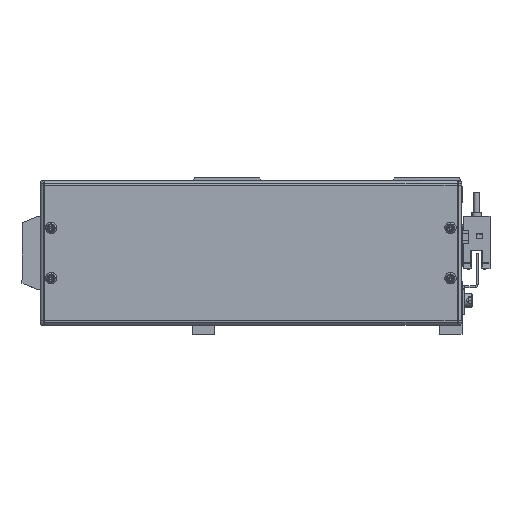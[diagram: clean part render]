
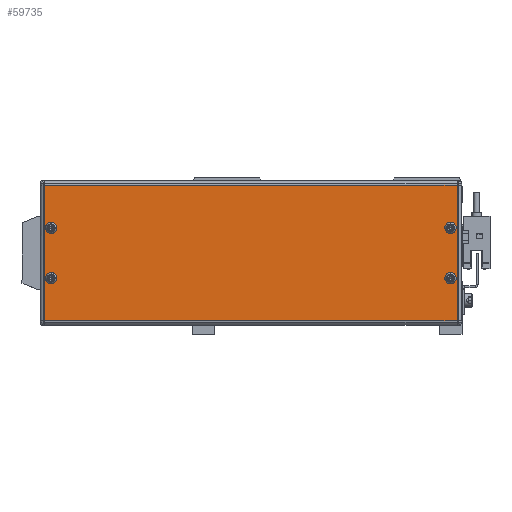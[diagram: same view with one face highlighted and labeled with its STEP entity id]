
A CAD part, front view. The second image highlights one B-rep face of the part: STEP entity #59735.
In plain terms, the highlighted planar face has unit normal (0, -1, 0) as drawn and (0, 0, 1) by its records, which use the part's own axes.
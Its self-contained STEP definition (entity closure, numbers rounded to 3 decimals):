
#197 = DIRECTION ( 'NONE',  ( 0., -1., 0. ) ) ;
#812 = DIRECTION ( 'NONE',  ( 1., 0., 0. ) ) ;
#1558 = CIRCLE ( 'NONE', #5477, 2. ) ;
#2247 = VERTEX_POINT ( 'NONE', #32899 ) ;
#2771 = CIRCLE ( 'NONE', #21079, 2. ) ;
#2951 = CARTESIAN_POINT ( 'NONE',  ( 143.104, 17.86, 400. ) ) ;
#4017 = DIRECTION ( 'NONE',  ( 1., 0., 0. ) ) ;
#5038 = DIRECTION ( 'NONE',  ( 0., 0., 1. ) ) ;
#5062 = AXIS2_PLACEMENT_3D ( 'NONE', #37047, #47709, #52932 ) ;
#5118 = EDGE_CURVE ( 'NONE', #51415, #56471, #1558, .T. ) ;
#5242 = EDGE_LOOP ( 'NONE', ( #31047, #30261 ) ) ;
#5477 = AXIS2_PLACEMENT_3D ( 'NONE', #22239, #16813, #812 ) ;
#5544 = DIRECTION ( 'NONE',  ( 1., 0., 0. ) ) ;
#5624 = FACE_BOUND ( 'NONE', #13006, .T. ) ;
#7408 = VERTEX_POINT ( 'NONE', #46159 ) ;
#7965 = DIRECTION ( 'NONE',  ( 1., 0., 0. ) ) ;
#8008 = DIRECTION ( 'NONE',  ( 0., 0., 1. ) ) ;
#9710 = LINE ( 'NONE', #24643, #54780 ) ;
#10123 = CARTESIAN_POINT ( 'NONE',  ( -61.16, 39.124, 400. ) ) ;
#13006 = EDGE_LOOP ( 'NONE', ( #54839, #49816 ) ) ;
#13302 = CARTESIAN_POINT ( 'NONE',  ( -55.896, -7.14, 400. ) ) ;
#13342 = EDGE_CURVE ( 'NONE', #62360, #54579, #9710, .T. ) ;
#15938 = FACE_BOUND ( 'NONE', #18577, .T. ) ;
#16744 = CARTESIAN_POINT ( 'NONE',  ( 141.104, -7.14, 400. ) ) ;
#16813 = DIRECTION ( 'NONE',  ( 0., 0., 1. ) ) ;
#18577 = EDGE_LOOP ( 'NONE', ( #38664, #31060 ) ) ;
#18623 = EDGE_CURVE ( 'NONE', #55507, #69044, #2771, .T. ) ;
#20512 = EDGE_LOOP ( 'NONE', ( #66088, #62236 ) ) ;
#21079 = AXIS2_PLACEMENT_3D ( 'NONE', #57318, #52323, #4017 ) ;
#21713 = DIRECTION ( 'NONE',  ( 1., 0., 0. ) ) ;
#22226 = DIRECTION ( 'NONE',  ( 0., 0., 1. ) ) ;
#22239 = CARTESIAN_POINT ( 'NONE',  ( 141.104, 17.86, 400. ) ) ;
#22362 = VERTEX_POINT ( 'NONE', #59367 ) ;
#22400 = CARTESIAN_POINT ( 'NONE',  ( -57.896, -7.14, 400. ) ) ;
#22828 = CARTESIAN_POINT ( 'NONE',  ( -61.16, 39.153, 400. ) ) ;
#23117 = LINE ( 'NONE', #22828, #65573 ) ;
#24411 = DIRECTION ( 'NONE',  ( 0., 1., 0. ) ) ;
#24412 = FACE_BOUND ( 'NONE', #5242, .T. ) ;
#24643 = CARTESIAN_POINT ( 'NONE',  ( 144.367, -28.433, 400. ) ) ;
#24680 = ORIENTED_EDGE ( 'NONE', *, *, #69789, .T. ) ;
#24905 = DIRECTION ( 'NONE',  ( 1., 0., 0. ) ) ;
#25239 = VERTEX_POINT ( 'NONE', #35854 ) ;
#27061 = EDGE_CURVE ( 'NONE', #2247, #62360, #63079, .T. ) ;
#30261 = ORIENTED_EDGE ( 'NONE', *, *, #45007, .F. ) ;
#31047 = ORIENTED_EDGE ( 'NONE', *, *, #59570, .F. ) ;
#31060 = ORIENTED_EDGE ( 'NONE', *, *, #5118, .F. ) ;
#32899 = CARTESIAN_POINT ( 'NONE',  ( -61.16, -28.403, 400. ) ) ;
#35854 = CARTESIAN_POINT ( 'NONE',  ( -55.896, 17.86, 400. ) ) ;
#36575 = VERTEX_POINT ( 'NONE', #10123 ) ;
#36905 = CIRCLE ( 'NONE', #54159, 2. ) ;
#37047 = CARTESIAN_POINT ( 'NONE',  ( -57.896, 17.86, 400. ) ) ;
#37093 = VERTEX_POINT ( 'NONE', #63182 ) ;
#37990 = CIRCLE ( 'NONE', #67244, 2. ) ;
#38213 = CARTESIAN_POINT ( 'NONE',  ( 141.104, -7.14, 400. ) ) ;
#38229 = DIRECTION ( 'NONE',  ( 1., 0., 0. ) ) ;
#38664 = ORIENTED_EDGE ( 'NONE', *, *, #39162, .F. ) ;
#38886 = CIRCLE ( 'NONE', #57711, 2. ) ;
#39094 = DIRECTION ( 'NONE',  ( 1., 0., 0. ) ) ;
#39162 = EDGE_CURVE ( 'NONE', #56471, #51415, #36905, .T. ) ;
#39537 = CIRCLE ( 'NONE', #42341, 2. ) ;
#40815 = CARTESIAN_POINT ( 'NONE',  ( -34.746, 3.4, 400. ) ) ;
#42341 = AXIS2_PLACEMENT_3D ( 'NONE', #38213, #22226, #5544 ) ;
#42688 = ORIENTED_EDGE ( 'NONE', *, *, #68172, .T. ) ;
#43159 = FACE_OUTER_BOUND ( 'NONE', #65339, .T. ) ;
#43438 = DIRECTION ( 'NONE',  ( 0., 0., 1. ) ) ;
#44081 = VECTOR ( 'NONE', #67253, 1000. ) ;
#45007 = EDGE_CURVE ( 'NONE', #7408, #25239, #60772, .T. ) ;
#45448 = CARTESIAN_POINT ( 'NONE',  ( 144.397, 39.124, 400. ) ) ;
#46159 = CARTESIAN_POINT ( 'NONE',  ( -59.896, 17.86, 400. ) ) ;
#46429 = CIRCLE ( 'NONE', #58624, 2. ) ;
#47709 = DIRECTION ( 'NONE',  ( 0., 0., 1. ) ) ;
#48654 = VECTOR ( 'NONE', #7965, 1000. ) ;
#49063 = CARTESIAN_POINT ( 'NONE',  ( -59.896, -7.14, 400. ) ) ;
#49073 = AXIS2_PLACEMENT_3D ( 'NONE', #40815, #62158, #68276 ) ;
#49816 = ORIENTED_EDGE ( 'NONE', *, *, #60605, .F. ) ;
#50686 = EDGE_CURVE ( 'NONE', #22362, #37093, #39537, .T. ) ;
#50767 = FACE_BOUND ( 'NONE', #20512, .T. ) ;
#50798 = CARTESIAN_POINT ( 'NONE',  ( 144.367, 39.124, 400. ) ) ;
#50799 = CARTESIAN_POINT ( 'NONE',  ( 139.104, 17.86, 400. ) ) ;
#51415 = VERTEX_POINT ( 'NONE', #50799 ) ;
#52323 = DIRECTION ( 'NONE',  ( 0., 0., 1. ) ) ;
#52932 = DIRECTION ( 'NONE',  ( 1., 0., 0. ) ) ;
#54159 = AXIS2_PLACEMENT_3D ( 'NONE', #57443, #8008, #24905 ) ;
#54579 = VERTEX_POINT ( 'NONE', #50798 ) ;
#54780 = VECTOR ( 'NONE', #24411, 1000. ) ;
#54839 = ORIENTED_EDGE ( 'NONE', *, *, #50686, .F. ) ;
#55507 = VERTEX_POINT ( 'NONE', #49063 ) ;
#56471 = VERTEX_POINT ( 'NONE', #2951 ) ;
#57318 = CARTESIAN_POINT ( 'NONE',  ( -57.896, -7.14, 400. ) ) ;
#57443 = CARTESIAN_POINT ( 'NONE',  ( 141.104, 17.86, 400. ) ) ;
#57711 = AXIS2_PLACEMENT_3D ( 'NONE', #60732, #43438, #38229 ) ;
#58624 = AXIS2_PLACEMENT_3D ( 'NONE', #16744, #5038, #21713 ) ;
#59367 = CARTESIAN_POINT ( 'NONE',  ( 143.104, -7.14, 400. ) ) ;
#59570 = EDGE_CURVE ( 'NONE', #25239, #7408, #38886, .T. ) ;
#59735 = ADVANCED_FACE ( 'NONE', ( #24412, #50767, #5624, #15938, #43159 ), #67131, .T. ) ;
#59927 = DIRECTION ( 'NONE',  ( 0., 0., 1. ) ) ;
#60028 = EDGE_CURVE ( 'NONE', #69044, #55507, #37990, .T. ) ;
#60064 = ORIENTED_EDGE ( 'NONE', *, *, #13342, .T. ) ;
#60605 = EDGE_CURVE ( 'NONE', #37093, #22362, #46429, .T. ) ;
#60732 = CARTESIAN_POINT ( 'NONE',  ( -57.896, 17.86, 400. ) ) ;
#60772 = CIRCLE ( 'NONE', #5062, 2. ) ;
#62158 = DIRECTION ( 'NONE',  ( 0., 0., 1. ) ) ;
#62164 = CARTESIAN_POINT ( 'NONE',  ( -61.189, -28.403, 400. ) ) ;
#62236 = ORIENTED_EDGE ( 'NONE', *, *, #18623, .F. ) ;
#62360 = VERTEX_POINT ( 'NONE', #66561 ) ;
#63079 = LINE ( 'NONE', #62164, #48654 ) ;
#63182 = CARTESIAN_POINT ( 'NONE',  ( 139.104, -7.14, 400. ) ) ;
#65339 = EDGE_LOOP ( 'NONE', ( #68189, #60064, #42688, #24680 ) ) ;
#65573 = VECTOR ( 'NONE', #197, 1000. ) ;
#66088 = ORIENTED_EDGE ( 'NONE', *, *, #60028, .F. ) ;
#66561 = CARTESIAN_POINT ( 'NONE',  ( 144.367, -28.403, 400. ) ) ;
#67131 = PLANE ( 'NONE',  #49073 ) ;
#67244 = AXIS2_PLACEMENT_3D ( 'NONE', #22400, #59927, #39094 ) ;
#67253 = DIRECTION ( 'NONE',  ( -1., 0., 0. ) ) ;
#67845 = LINE ( 'NONE', #45448, #44081 ) ;
#68172 = EDGE_CURVE ( 'NONE', #54579, #36575, #67845, .T. ) ;
#68189 = ORIENTED_EDGE ( 'NONE', *, *, #27061, .T. ) ;
#68276 = DIRECTION ( 'NONE',  ( 1., 0., 0. ) ) ;
#69044 = VERTEX_POINT ( 'NONE', #13302 ) ;
#69789 = EDGE_CURVE ( 'NONE', #36575, #2247, #23117, .T. ) ;
